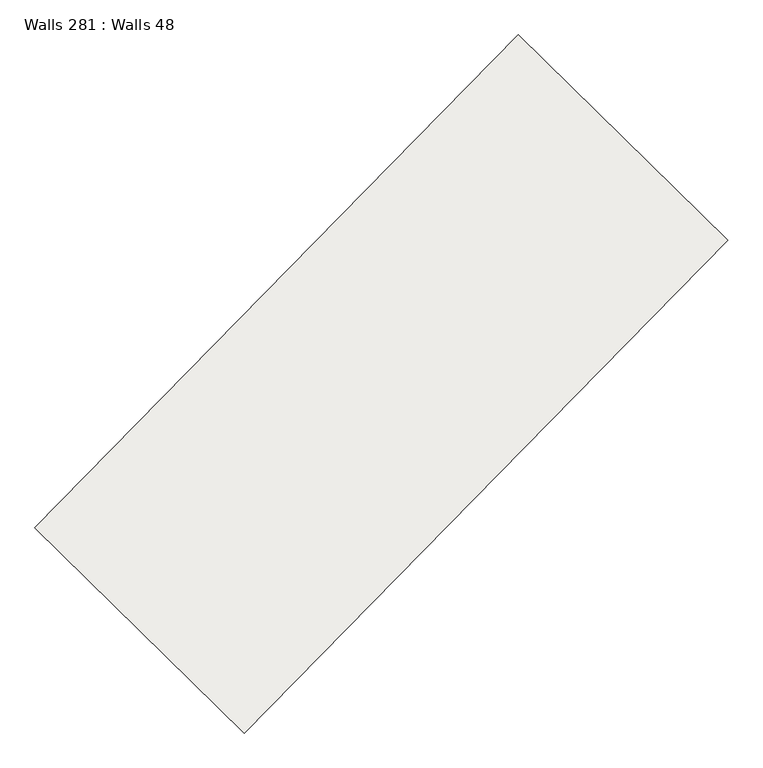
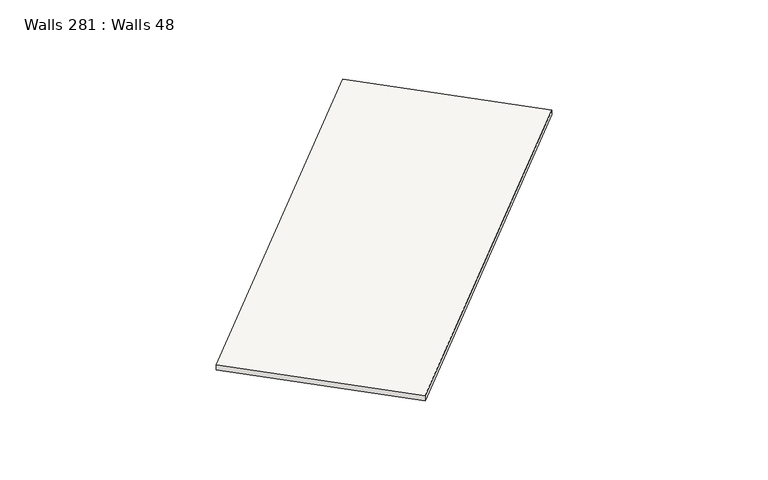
"""IFC4 building model written with IfcOpenShell, lengths in millimetres: slab geometry, Walls 281 : Walls 48."""

import ifcopenshell
import ifcopenshell.guid

model = None  # the IFC model being written
_history = None  # IfcOwnerHistory: only IFC2X3 demands one
_inside = {}  # id of a spatial element -> (the spatial element, [elements in it])
_under = {}  # id of a project, library or spatial element -> (it, [spatial elements below it])
_declared = {}  # id of a project -> (the project, [libraries it declares])
_typed = {}  # id of a type object -> (the type object, [elements of that type])
_made_of = {}  # id of a material, layer set ... -> (it, [elements and type objects made of it])


def new_model(schema):
    """Start an empty IFC model of exactly this schema.

    Asked for "IFC4X3", IfcOpenShell would pick the latest addendum, in which some entities
    have other attributes; the version numbers below select the first issue.
    IFC2X3 requires an IfcOwnerHistory on every rooted entity: one is made here for all.
    """
    global model, _history
    if schema == "IFC4X3":
        model = ifcopenshell.file(schema_version=(4, 3, 0, 0))
    else:
        model = ifcopenshell.file(schema=schema)
    _inside.clear()
    _under.clear()
    _declared.clear()
    _typed.clear()
    _made_of.clear()
    _history = None
    if model.schema == "IFC2X3":
        org = make("IfcOrganization", Name="unknown")
        user = make(
            "IfcPersonAndOrganization",
            ThePerson=make("IfcPerson", FamilyName="unknown"),
            TheOrganization=org,
        )
        app = make(
            "IfcApplication",
            ApplicationDeveloper=org,
            Version="unknown",
            ApplicationFullName="unknown",
            ApplicationIdentifier="unknown",
        )
        _history = make(
            "IfcOwnerHistory",
            OwningUser=user,
            OwningApplication=app,
            ChangeAction="ADDED",
            CreationDate=0,
        )
    return model


def make(cls, **values):
    """One entity of the class cls with the attributes given. An attribute that is None is left unset."""
    return model.create_entity(
        cls, **{name: value for name, value in values.items() if value is not None}
    )


def rooted(cls, **values):
    """An entity with a GlobalId (a new one), such as an element, a storey or a relation."""
    return make(cls, GlobalId=ifcopenshell.guid.new(), OwnerHistory=_history, **values)


def si_unit(unit_type, name, prefix=None):
    """IfcSIUnit, for example si_unit("LENGTHUNIT", "METRE", prefix="MILLI")."""
    return make("IfcSIUnit", UnitType=unit_type, Prefix=prefix, Name=name)


def assignment(units):
    """IfcUnitAssignment: the units of a project."""
    return None if units is None else make("IfcUnitAssignment", Units=units)


def point(xyz):
    """IfcCartesianPoint."""
    return None if xyz is None else make("IfcCartesianPoint", Coordinates=xyz)


def direction(xyz):
    """IfcDirection."""
    return None if xyz is None else make("IfcDirection", DirectionRatios=xyz)


def frame(location, z_axis=None, x_axis=None):
    """IfcAxis2Placement3D, a coordinate frame: its origin and axes. An axis left out is left unset."""
    return make(
        "IfcAxis2Placement3D",
        Location=point(location),
        Axis=direction(z_axis),
        RefDirection=direction(x_axis),
    )


def origin():
    """The frame at (0, 0, 0) with its axes left unset."""
    return frame((0.0, 0.0, 0.0))


def place(relative_to, where):
    """IfcLocalPlacement: puts the frame where relative to a parent placement (None: the world)."""
    return make(
        "IfcLocalPlacement", PlacementRelTo=relative_to, RelativePlacement=where
    )


def context(
    kind, dimensions, precision=None, world=None, true_north=None, identifier=None
):
    """IfcGeometricRepresentationContext, for example the 3D "Model" context."""
    return make(
        "IfcGeometricRepresentationContext",
        ContextIdentifier=identifier,
        ContextType=kind,
        CoordinateSpaceDimension=dimensions,
        Precision=precision,
        WorldCoordinateSystem=world,
        TrueNorth=true_north,
    )


def project(units=None, contexts=None):
    """IfcProject with its units and contexts."""
    return rooted(
        "IfcProject",
        Name="project",
        RepresentationContexts=contexts,
        UnitsInContext=assignment(units),
    )


def spatial(cls, under=None, at=None, **own):
    """A site, building, storey or space (cls), placed at a placement, below another one or the project."""
    s = rooted(cls, ObjectPlacement=at, **own)
    if under is not None:
        _under.setdefault(under.id(), (under, []))[1].append(s)
    return s


def polyline(points):
    """IfcPolyline through the points."""
    return make("IfcPolyline", Points=[point(p) for p in points])


def outline(outer, holes=None, kind="AREA"):
    """IfcArbitraryClosedProfileDef: a profile drawn as a closed curve; with holes, ...WithVoids."""
    if holes is None:
        return make("IfcArbitraryClosedProfileDef", ProfileType=kind, OuterCurve=outer)
    return make(
        "IfcArbitraryProfileDefWithVoids",
        ProfileType=kind,
        OuterCurve=outer,
        InnerCurves=holes,
    )


def extrude(swept, where, along, depth):
    """IfcExtrudedAreaSolid: the profile swept, set in the frame where, extruded along a direction by depth."""
    return make(
        "IfcExtrudedAreaSolid",
        SweptArea=swept,
        Position=where,
        ExtrudedDirection=direction(along),
        Depth=depth,
    )


def shape(context_of_items, identifier, shape_type, items):
    """IfcShapeRepresentation: the items that make up one representation, for example the "Body"."""
    return make(
        "IfcShapeRepresentation",
        ContextOfItems=context_of_items,
        RepresentationIdentifier=identifier,
        RepresentationType=shape_type,
        Items=items,
    )


def source(mapping_origin, context_of_items, identifier, shape_type, items):
    """IfcRepresentationMap: a shape defined once, which mapped items show again and again."""
    return make(
        "IfcRepresentationMap",
        MappingOrigin=mapping_origin,
        MappedRepresentation=shape(context_of_items, identifier, shape_type, items),
    )


def transform(
    local_origin,
    x_axis=None,
    y_axis=None,
    z_axis=None,
    scale=None,
    scale2=None,
    scale3=None,
    uniform=True,
):
    """IfcCartesianTransformationOperator3D, or its non-uniform kind. x_axis, y_axis, z_axis: its Axis1, 2, 3."""
    if uniform:
        return make(
            "IfcCartesianTransformationOperator3D",
            Axis1=direction(x_axis),
            Axis2=direction(y_axis),
            LocalOrigin=point(local_origin),
            Scale=scale,
            Axis3=direction(z_axis),
        )
    return make(
        "IfcCartesianTransformationOperator3DnonUniform",
        Axis1=direction(x_axis),
        Axis2=direction(y_axis),
        LocalOrigin=point(local_origin),
        Scale=scale,
        Axis3=direction(z_axis),
        Scale2=scale2,
        Scale3=scale3,
    )


def mapped(mapping_source, mapping_target):
    """IfcMappedItem: shows the shape of a source again, moved by a transform."""
    return make(
        "IfcMappedItem", MappingSource=mapping_source, MappingTarget=mapping_target
    )


def made_of(thing, what):
    """Note that an element or type object is made of a material, layer set ...; save() writes the relation."""
    if what is not None:
        _made_of.setdefault(what.id(), (what, []))[1].append(thing)
    return thing


def element(
    cls,
    number,
    at=None,
    inside=None,
    cuts=None,
    type_object=None,
    material=None,
    context=None,
    identifier="Body",
    shape_type=None,
    held_by="IfcProductDefinitionShape",
    body=None,
    shapes=None,
    **own,
):
    """One element of the class cls, such as IfcWall. Its Tag is "e" and its number.

    at: its placement. inside: the storey or other place that contains it. cuts: it is an
    opening in that element (IfcRelVoidsElement). A single representation is given by context,
    identifier, shape_type and body (its items); several are given by shapes. held_by: the class
    of the entity that holds the representations. save() writes the other relations.
    """
    e = rooted(cls, Tag="e%d" % number, ObjectPlacement=at, **own)
    if body is not None:
        shapes = [shape(context, identifier, shape_type, body)]
    if shapes is not None:
        e.Representation = make(held_by, Representations=shapes)
    if inside is not None:
        _inside.setdefault(inside.id(), (inside, []))[1].append(e)
    if cuts is not None:
        rooted(
            "IfcRelVoidsElement", RelatingBuildingElement=cuts, RelatedOpeningElement=e
        )
    if type_object is not None:
        _typed.setdefault(type_object.id(), (type_object, []))[1].append(e)
    return made_of(e, material)


def aggregate(whole, parts):
    """IfcRelAggregates: a whole, such as a stair, and the parts it consists of."""
    return rooted("IfcRelAggregates", RelatingObject=whole, RelatedObjects=parts)


def save(model, path):
    """Write the relations noted so far, then the file.

    IfcRelAggregates (storeys below a building ...), IfcRelContainedInSpatialStructure (elements
    in a storey), IfcRelDefinesByType, IfcRelAssociatesMaterial and IfcRelDeclares: one each for
    every whole, place, type object, material and project.
    """
    for whole, parts in _under.values():
        aggregate(whole, parts)
    for where, things in _inside.values():
        rooted(
            "IfcRelContainedInSpatialStructure",
            RelatedElements=things,
            RelatingStructure=where,
        )
    for kind, things in _typed.values():
        rooted("IfcRelDefinesByType", RelatedObjects=things, RelatingType=kind)
    for what, things in _made_of.values():
        rooted("IfcRelAssociatesMaterial", RelatedObjects=things, RelatingMaterial=what)
    for by, libraries in _declared.values():
        rooted("IfcRelDeclares", RelatingContext=by, RelatedDefinitions=libraries)
    model.write(path)


def walls_281_walls_48_dc278ff3(model_context):
    return source(origin(), model_context, "Body", "SweptSolid", [
        extrude(outline(polyline([(-50.0, 0.0), (50.0, 0.0), (-40.0, -8700.0000009), (-140.0, -8700.0000009), (-50.0, 0.0)])), frame((-91354.3053155, -252436.7188164, 636720.0), z_axis=(-0.7137361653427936, 0.7004146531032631, 0.0), x_axis=(0.0, 0.0, 1.0)), (0.0, 0.0, 1.0), 3699.999995),
    ])


if __name__ == "__main__":
    model = new_model("IFC4")
    model_context = context("Model", 3, world=origin())
    ifc_project = project(units=[si_unit("LENGTHUNIT", "METRE", prefix="MILLI")], contexts=[model_context])
    site = spatial("IfcSite", under=ifc_project)
    building = spatial("IfcBuilding", under=site)
    placement = place(None, origin())
    walls_281_walls_48_shape = walls_281_walls_48_dc278ff3(model_context)
    element("IfcSlab", 1, ObjectType="Walls 281 : Walls 48", at=placement, inside=building, context=model_context, shape_type="MappedRepresentation", body=[
        mapped(walls_281_walls_48_shape, transform((0.0, 0.0, 0.0), x_axis=(1.0, 0.0, 0.0), y_axis=(0.0, 1.0, 0.0), z_axis=(0.0, 0.0, 1.0))),
    ])
    save(model, "model.ifc")
